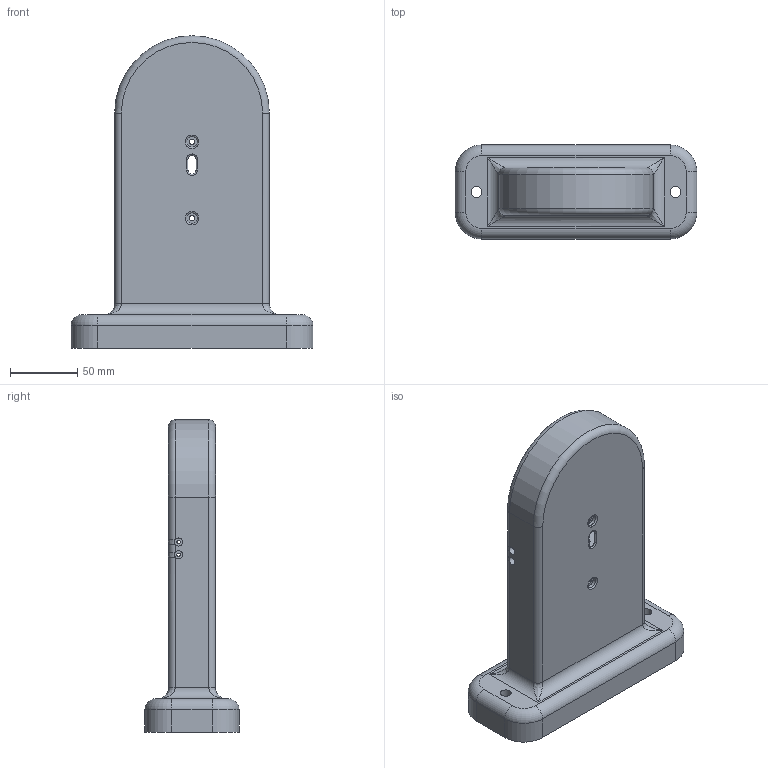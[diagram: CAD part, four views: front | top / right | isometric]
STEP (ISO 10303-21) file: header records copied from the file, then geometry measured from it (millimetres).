
FILE_DESCRIPTION(('FreeCAD Model'),'2;1');
FILE_NAME('Open CASCADE Shape Model','2026-10-05T10:52:53',(''),(''), 'Open CASCADE STEP processor 7.8','FreeCAD','Unknown');
FILE_SCHEMA(('AUTOMOTIVE_DESIGN { 1 0 10303 214 1 1 1 1 }'));
Length unit declared in the file: millimetre
Products named in the file (1): Left rear up stand
Bounding box: 180 x 70 x 232.5 mm (x, y, z)
Volume: 983559.5 mm3; surface area: 105939.3 mm2
Topology: 1 solids, 1 shells, 104 faces, 276 edges, 168 vertices
Faces by surface type: cylinder 44, plane 39, bspline 11, torus 10
Full cylindrical faces by diameter (mm): 2.5 x4, 4 x2, 6 x4, 8 x4
Entity records: 3632 total; most frequent: CARTESIAN_POINT 1074, ORIENTED_EDGE 544, DIRECTION 514, EDGE_CURVE 272, AXIS2_PLACEMENT_3D 183, VERTEX_POINT 168, LINE 148, VECTOR 148
